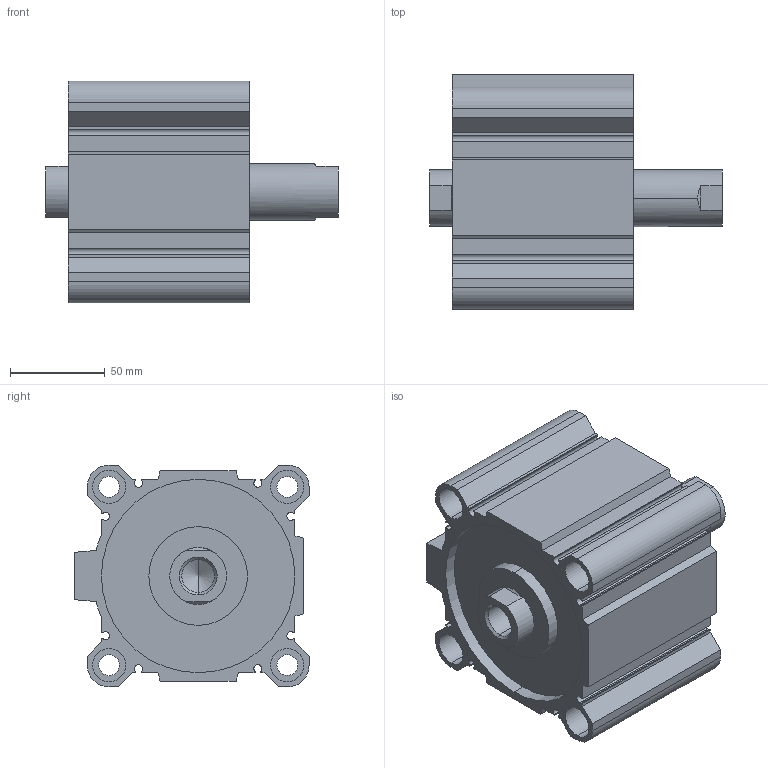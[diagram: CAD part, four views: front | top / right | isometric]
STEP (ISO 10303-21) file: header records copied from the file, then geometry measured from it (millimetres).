
FILE_DESCRIPTION (( 'STEP AP203' ), '1' );
FILE_NAME ('CCMB100-35F-P.STEP', '2020-08-05T11:54:06', ( '' ), ( '' ), 'SwSTEP 2.0', 'SolidWorks 2019', '' );
FILE_SCHEMA (( 'CONFIG_CONTROL_DESIGN' ));
Length unit declared in the file: millimetre
Products named in the file (1): CCMB100-35F-P
Bounding box: 154.5 x 123.5 x 117 mm (x, y, z)
Volume: 798417.6 mm3; surface area: 182053.6 mm2
Topology: 2 solids, 2 shells, 178 faces, 456 edges, 298 vertices
Faces by surface type: plane 90, cylinder 76, cone 12
Entity records: 5491 total; most frequent: DIRECTION 962, CARTESIAN_POINT 953, ORIENTED_EDGE 904, EDGE_CURVE 452, AXIS2_PLACEMENT_3D 339, VERTEX_POINT 298, VECTOR 284, LINE 284
